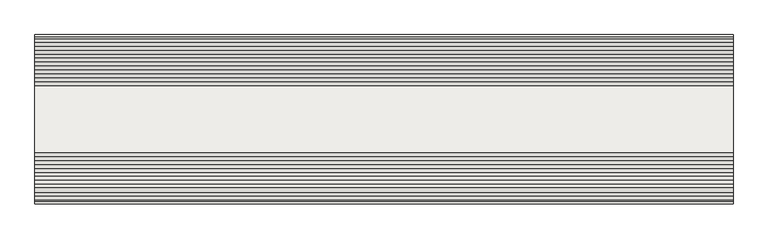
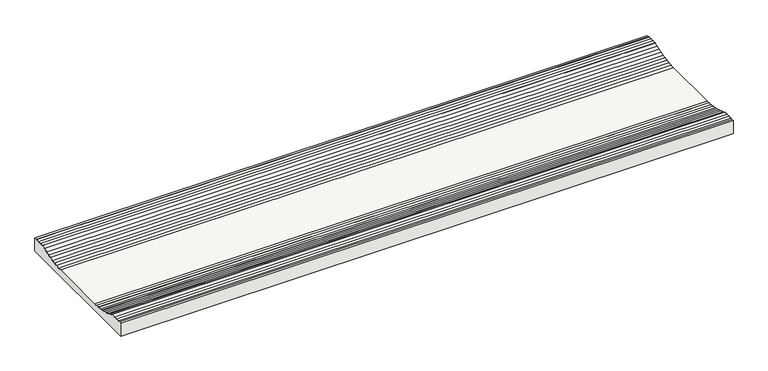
"""IFC4 building model written with IfcOpenShell, lengths in millimetres: slab geometry, ROSA GRES_204 : Pieza 204_Indugres_Indubeige_Tecno."""

from ifc_helpers import new_model, si_unit, point, frame, frame_2d, origin, place, context, project, spatial, polyline, circle_curve, trimmed, segment, composite_curve, outline, extrude, source, transform, mapped, element, save


def slab_f72ae3bc(model_context):
    return source(origin(), model_context, "Body", "SweptSolid", [
        extrude(outline(composite_curve([segment(polyline([(0.0, 0.0), (-250.0, 0.0), (-250.0, 22.8672484), (-246.5165615, 22.8672484)]), True, "CONTINUOUS"), segment(trimmed(circle_curve(frame_2d((-246.5165615, 24.9459193)), 2.078671), [point((-246.5165615, 22.8672484))], [point((-244.6066559, 24.1254722))], True, "CARTESIAN"), True, "CONTINUOUS"), segment(trimmed(circle_curve(frame_2d((-241.5227559, 27.2443435)), 4.3860914), [point((-244.6066559, 24.1254722))], [point((-238.5231465, 24.0443215))], True, "CARTESIAN"), True, "CONTINUOUS"), segment(trimmed(circle_curve(frame_2d((-235.5165615, 27.2619892)), 4.4037415), [point((-238.5231465, 24.0443215))], [point((-232.5161808, 24.0385354))], True, "CARTESIAN"), True, "CONTINUOUS"), segment(trimmed(circle_curve(frame_2d((-229.5227559, 27.2443435)), 4.3860914), [point((-232.5161808, 24.0385354))], [point((-226.4518445, 24.1126825))], True, "CARTESIAN"), True, "CONTINUOUS"), segment(trimmed(circle_curve(frame_2d((-222.4126485, 25.8222711)), 4.3860914), [point((-226.4518445, 24.1126825))], [point((-220.9070916, 21.702672))], True, "CARTESIAN"), True, "CONTINUOUS"), segment(trimmed(circle_curve(frame_2d((-217.0089888, 23.7132919)), 4.3860914), [point((-220.9070916, 21.702672))], [point((-215.3259087, 19.6629784))], True, "CARTESIAN"), True, "CONTINUOUS"), segment(trimmed(circle_curve(frame_2d((-211.4655295, 21.7451095)), 4.3860914), [point((-215.3259087, 19.6629784))], [point((-209.593873, 17.7784107))], True, "CARTESIAN"), True, "CONTINUOUS"), segment(trimmed(circle_curve(frame_2d((-205.8934032, 20.1330489)), 4.3860914), [point((-209.593873, 17.7784107))], [point((-203.853023, 16.2504407))], True, "CARTESIAN"), True, "CONTINUOUS"), segment(trimmed(circle_curve(frame_2d((-200.2085503, 18.690854)), 4.3860914), [point((-203.853023, 16.2504407))], [point((-197.9613895, 14.9241491))], True, "CARTESIAN"), True, "CONTINUOUS"), segment(trimmed(circle_curve(frame_2d((-194.4503067, 17.5528551)), 4.3860914), [point((-197.9613895, 14.9241491))], [point((-192.1240285, 13.8344915))], True, "CARTESIAN"), True, "CONTINUOUS"), segment(trimmed(circle_curve(frame_2d((-188.6900903, 16.563203)), 4.3860914), [point((-192.1240285, 13.8344915))], [point((-186.1425933, 12.9927609))], True, "CARTESIAN"), True, "CONTINUOUS"), segment(trimmed(circle_curve(frame_2d((-182.8453461, 15.8851576)), 4.3860914), [point((-186.1425933, 12.9927609))], [point((-180.2419212, 12.3552884))], True, "CARTESIAN"), True, "CONTINUOUS"), segment(trimmed(circle_curve(frame_2d((-177.0588098, 15.372837)), 4.3860914), [point((-180.2419212, 12.3552884))], [point((-174.3413989, 11.9299493))], True, "CARTESIAN"), True, "CONTINUOUS"), segment(polyline([(-174.3413989, 11.9299493), (-75.6586011, 11.9299493)]), True, "CONTINUOUS"), segment(trimmed(circle_curve(frame_2d((-72.9411902, 15.372837)), 4.3860914), [point((-75.6586011, 11.9299493))], [point((-69.7580788, 12.3552884))], True, "CARTESIAN"), True, "CONTINUOUS"), segment(trimmed(circle_curve(frame_2d((-67.1546539, 15.8851576)), 4.3860914), [point((-69.7580788, 12.3552884))], [point((-63.8574067, 12.9927609))], True, "CARTESIAN"), True, "CONTINUOUS"), segment(trimmed(circle_curve(frame_2d((-61.3099097, 16.563203)), 4.3860914), [point((-63.8574067, 12.9927609))], [point((-57.8759715, 13.8344915))], True, "CARTESIAN"), True, "CONTINUOUS"), segment(trimmed(circle_curve(frame_2d((-55.5496933, 17.5528551)), 4.3860914), [point((-57.8759715, 13.8344915))], [point((-52.0386105, 14.9241491))], True, "CARTESIAN"), True, "CONTINUOUS"), segment(trimmed(circle_curve(frame_2d((-49.7914497, 18.690854)), 4.3860914), [point((-52.0386105, 14.9241491))], [point((-46.146977, 16.2504407))], True, "CARTESIAN"), True, "CONTINUOUS"), segment(trimmed(circle_curve(frame_2d((-44.1065968, 20.1330489)), 4.3860914), [point((-46.146977, 16.2504407))], [point((-40.406127, 17.7784107))], True, "CARTESIAN"), True, "CONTINUOUS"), segment(trimmed(circle_curve(frame_2d((-38.5344705, 21.7451095)), 4.3860914), [point((-40.406127, 17.7784107))], [point((-34.6740913, 19.6629784))], True, "CARTESIAN"), True, "CONTINUOUS"), segment(trimmed(circle_curve(frame_2d((-32.9910112, 23.7132919)), 4.3860914), [point((-34.6740913, 19.6629784))], [point((-29.0929084, 21.702672))], True, "CARTESIAN"), True, "CONTINUOUS"), segment(trimmed(circle_curve(frame_2d((-27.5873515, 25.8222711)), 4.3860914), [point((-29.0929084, 21.702672))], [point((-23.5481555, 24.1126825))], True, "CARTESIAN"), True, "CONTINUOUS"), segment(trimmed(circle_curve(frame_2d((-20.4772441, 27.2443435)), 4.3860914), [point((-23.5481555, 24.1126825))], [point((-17.4838192, 24.0385354))], True, "CARTESIAN"), True, "CONTINUOUS"), segment(trimmed(circle_curve(frame_2d((-14.4834385, 27.2619892)), 4.4037415), [point((-17.4838192, 24.0385354))], [point((-11.4768535, 24.0443215))], True, "CARTESIAN"), True, "CONTINUOUS"), segment(trimmed(circle_curve(frame_2d((-8.4772441, 27.2443435)), 4.3860914), [point((-11.4768535, 24.0443215))], [point((-5.3933441, 24.1254722))], True, "CARTESIAN"), True, "CONTINUOUS"), segment(trimmed(circle_curve(frame_2d((-3.4834385, 24.9459193)), 2.078671), [point((-5.3933441, 24.1254722))], [point((-3.4834385, 22.8672484))], True, "CARTESIAN"), True, "CONTINUOUS"), segment(polyline([(-3.4834385, 22.8672484), (0.0, 22.8672484), (0.0, 0.0)]), True, "CONTINUOUS")], self_intersect=False)), frame((0.0, 0.0, 0.0), z_axis=(1.0, 0.0, 0.0), x_axis=(0.0, 1.0, 0.0)), (0.0, 0.0, 1.0), 1030.0265886),
    ])


if __name__ == "__main__":
    model = new_model("IFC4")
    model_context = context("Model", 3, world=origin())
    ifc_project = project(units=[si_unit("LENGTHUNIT", "METRE", prefix="MILLI")], contexts=[model_context])
    site = spatial("IfcSite", under=ifc_project)
    building = spatial("IfcBuilding", under=site)
    placement = place(None, origin())
    slab_shape = slab_f72ae3bc(model_context)
    element("IfcSlab", 1, ObjectType="ROSA GRES_204 : Pieza 204_Indugres_Indubeige_Tecno", at=placement, inside=building, context=model_context, shape_type="MappedRepresentation", body=[
        mapped(slab_shape, transform((0.0, 0.0, 0.0), x_axis=(1.0, 0.0, 0.0), y_axis=(0.0, 1.0, 0.0), z_axis=(0.0, 0.0, 1.0))),
    ])
    save(model, "model.ifc")
